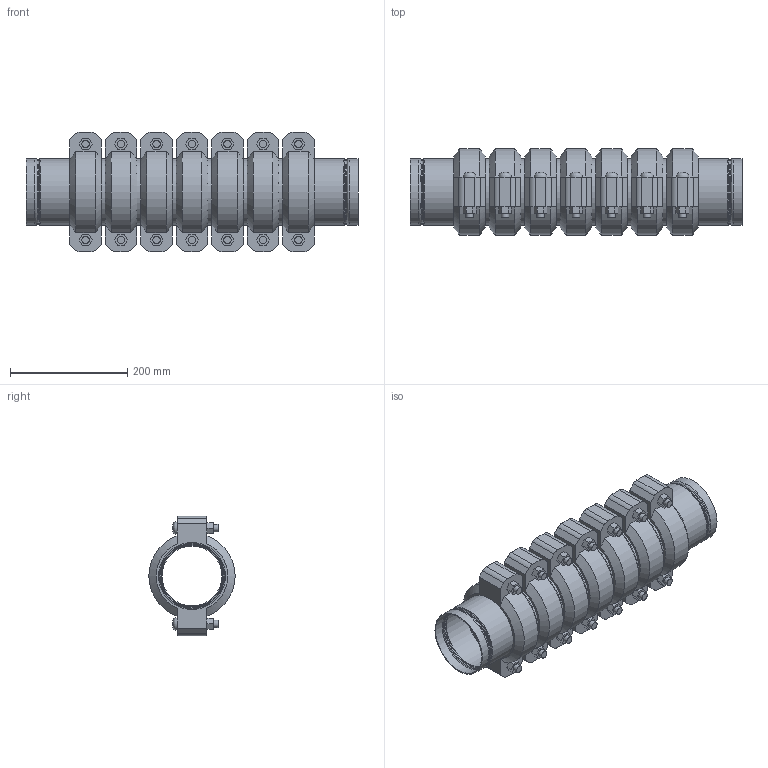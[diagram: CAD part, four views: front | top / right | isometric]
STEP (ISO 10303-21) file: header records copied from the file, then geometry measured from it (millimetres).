
FILE_DESCRIPTION(/* description */ ('VIC STRENGTHIN 100 EXPANSION JOINT 7 COUPLINGS COMPRESSED STYLE E155 (ST1)','CAx-IF Rec.Pracs.---Representation and Presentation of Product Manufacturing Information (PMI)---4.0---2014-10-13'),/* implementation_level */ '2;1');
FILE_NAME(/* name */ 'C:\Users\Vjadhav\AppData\Roaming\Autodesk\ApplicationPlugins\Victaulic.Temp\A926\Victaulic_SS-StrengThin 100_Expansion Joint_Compressed_7 Couplings_Style E155 (ST1)_4 (100).stp',/* time_stamp */ '2021-07-23T12:35:03+05:00',/* author */ ('kkamble'),/* organization */ ('Victaulic'),/* preprocessor_version */ 'ST-DEVELOPER v17.2',/* originating_system */ 'Autodesk Inventor 2019',/* authorisation */ '');
FILE_SCHEMA (('AP242_MANAGED_MODEL_BASED_3D_ENGINEERING_MIM_LF { 1 0 10303 442 1 1 4 }'));
Length unit declared in the file: inch
Products named in the file (4): E155-04.0; E494G-04.0; Nipple-04.0; 075-04.0
Assembly tree (15 placements, depth 2):
  E155-04.0
    E494G-04.0  x2
    Nipple-04.0  x6
    075-04.0  x7
Bounding box: 566.67 x 147.32 x 203.96 mm (x, y, z)
Volume: 4144655 mm3; surface area: 971108.7 mm2
Topology: 15 solids, 29 shells, 511 faces, 1291 edges, 912 vertices
Faces by surface type: plane 286, cylinder 147, torus 32, cone 32, bspline 14
Full cylindrical faces by diameter (mm): 12.7 x28, 14.605 x14, 102.26 x6, 105.639 x2, 106.883 x2, 108.839 x2, 110.084 x14, 111.1 x6, 114.3 x31
Entity records: 3679 total; most frequent: DIRECTION 655, CARTESIAN_POINT 647, ORIENTED_EDGE 536, AXIS2_PLACEMENT_3D 279, EDGE_CURVE 268, VERTEX_POINT 193, CIRCLE 163, EDGE_LOOP 123
